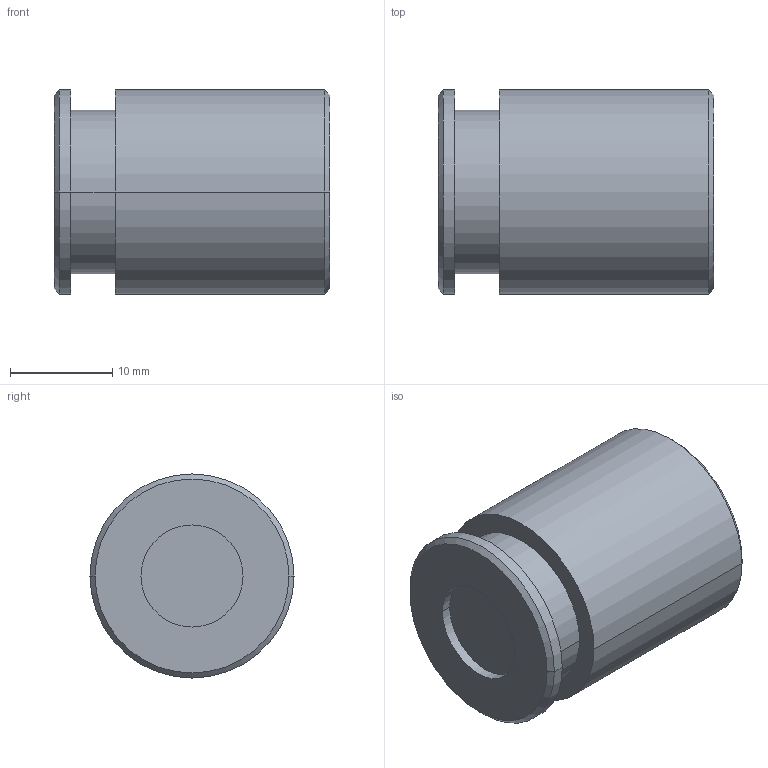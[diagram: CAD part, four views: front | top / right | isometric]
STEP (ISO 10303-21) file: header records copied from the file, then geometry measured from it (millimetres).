
FILE_DESCRIPTION((''),'2;1');
FILE_NAME('VJS3_06_030_02_000_226676','2022-10-13T',('l.soukupova'),(''),'PRO/ENGINEER BY PARAMETRIC TECHNOLOGY CORPORATION, 2015440','PRO/ENGINEER BY PARAMETRIC TECHNOLOGY CORPORATION, 2015440','');
FILE_SCHEMA(('AUTOMOTIVE_DESIGN { 1 0 10303 214 1 1 1 1 }'));
Length unit declared in the file: millimetre
Products named in the file (1): VJS3_06_030_02_000_226676
Bounding box: 27 x 20 x 20 mm (x, y, z)
Volume: 7582.8 mm3; surface area: 2577.6 mm2
Topology: 1 solids, 1 shells, 20 faces, 39 edges, 26 vertices
Faces by surface type: cylinder 10, plane 6, cone 4
Entity records: 732 total; most frequent: DIRECTION 105, CARTESIAN_POINT 86, ORIENTED_EDGE 76, AXIS2_PLACEMENT_3D 45, PRESENTATION_STYLE_ASSIGNMENT 41, STYLED_ITEM 41, CURVE_STYLE 40, EDGE_CURVE 38
